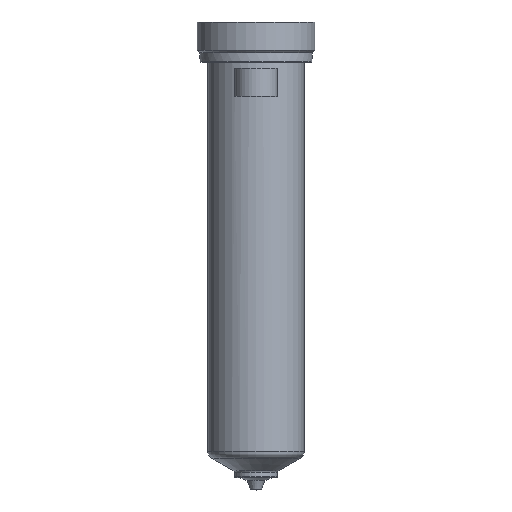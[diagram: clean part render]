
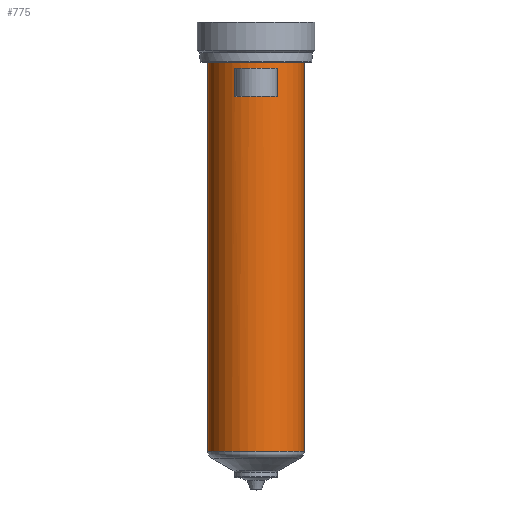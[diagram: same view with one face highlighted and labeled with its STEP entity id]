
A CAD part, top view. The second image highlights one B-rep face of the part: STEP entity #775.
In plain terms, the highlighted cylindrical face has radius 18 mm (diameter 36 mm), a partial arc.
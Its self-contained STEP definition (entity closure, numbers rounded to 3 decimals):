
#187=DIRECTION('',(0.,-1.,0.));
#188=VECTOR('',#187,145.506);
#189=CARTESIAN_POINT('',(18.,0.,0.));
#190=LINE('',#189,#188);
#191=CARTESIAN_POINT('',(0.,-145.506,0.));
#192=DIRECTION('',(0.,1.,0.));
#193=DIRECTION('',(-1.,0.,0.));
#194=AXIS2_PLACEMENT_3D('',#191,#192,#193);
#196=DIRECTION('',(0.,1.,0.));
#197=VECTOR('',#196,145.506);
#198=CARTESIAN_POINT('',(-18.,-145.506,0.));
#199=LINE('',#198,#197);
#200=CARTESIAN_POINT('',(0.,0.,0.));
#201=DIRECTION('',(0.,1.,0.));
#202=DIRECTION('',(-1.,0.,0.));
#203=AXIS2_PLACEMENT_3D('',#200,#201,#202);
#349=DIRECTION('',(0.,-1.,0.));
#350=VECTOR('',#349,10.5);
#351=CARTESIAN_POINT('',(-8.,-2.5,16.125));
#352=LINE('',#351,#350);
#353=CARTESIAN_POINT('',(0.,-13.,0.));
#354=DIRECTION('',(0.,1.,0.));
#355=DIRECTION('',(-0.444,0.,0.896));
#356=AXIS2_PLACEMENT_3D('',#353,#354,#355);
#379=CARTESIAN_POINT('',(0.,-2.5,0.));
#380=DIRECTION('',(0.,-1.,0.));
#381=DIRECTION('',(0.444,0.,0.896));
#382=AXIS2_PLACEMENT_3D('',#379,#380,#381);
#397=DIRECTION('',(0.,-1.,0.));
#398=VECTOR('',#397,10.5);
#399=CARTESIAN_POINT('',(8.,-2.5,16.125));
#400=LINE('',#399,#398);
#458=CARTESIAN_POINT('',(-18.,0.,0.));
#459=CARTESIAN_POINT('',(18.,0.,0.));
#460=VERTEX_POINT('',#458);
#461=VERTEX_POINT('',#459);
#470=CARTESIAN_POINT('',(-8.,-2.5,16.125));
#471=VERTEX_POINT('',#470);
#472=CARTESIAN_POINT('',(8.,-2.5,16.125));
#473=VERTEX_POINT('',#472);
#506=CARTESIAN_POINT('',(18.,-145.506,0.));
#507=VERTEX_POINT('',#506);
#516=CARTESIAN_POINT('',(-18.,-145.506,0.));
#517=VERTEX_POINT('',#516);
#534=CARTESIAN_POINT('',(-8.,-13.,16.125));
#535=CARTESIAN_POINT('',(8.,-13.,16.125));
#536=VERTEX_POINT('',#534);
#537=VERTEX_POINT('',#535);
#753=CARTESIAN_POINT('',(0.,16.4,0.));
#754=DIRECTION('',(0.,-1.,0.));
#755=DIRECTION('',(-1.,0.,0.));
#756=AXIS2_PLACEMENT_3D('',#753,#754,#755);
#757=CYLINDRICAL_SURFACE('',#756,18.);
#758=ORIENTED_EDGE('',*,*,#747,.T.);
#760=ORIENTED_EDGE('',*,*,#759,.F.);
#761=ORIENTED_EDGE('',*,*,#743,.T.);
#762=ORIENTED_EDGE('',*,*,#733,.T.);
#763=EDGE_LOOP('',(#758,#760,#761,#762));
#764=FACE_OUTER_BOUND('',#763,.F.);
#766=ORIENTED_EDGE('',*,*,#765,.T.);
#768=ORIENTED_EDGE('',*,*,#767,.T.);
#770=ORIENTED_EDGE('',*,*,#769,.F.);
#772=ORIENTED_EDGE('',*,*,#771,.T.);
#773=EDGE_LOOP('',(#766,#768,#770,#772));
#774=FACE_BOUND('',#773,.F.);
#775=ADVANCED_FACE('',(#764,#774),#757,.T.);
#195=CIRCLE('',#194,18.);
#204=CIRCLE('',#203,18.);
#357=CIRCLE('',#356,18.);
#383=CIRCLE('',#382,18.);
#733=EDGE_CURVE('',#460,#461,#204,.T.);
#743=EDGE_CURVE('',#517,#460,#199,.T.);
#747=EDGE_CURVE('',#461,#507,#190,.T.);
#759=EDGE_CURVE('',#517,#507,#195,.T.);
#765=EDGE_CURVE('',#471,#536,#352,.T.);
#767=EDGE_CURVE('',#536,#537,#357,.T.);
#769=EDGE_CURVE('',#473,#537,#400,.T.);
#771=EDGE_CURVE('',#473,#471,#383,.T.);
